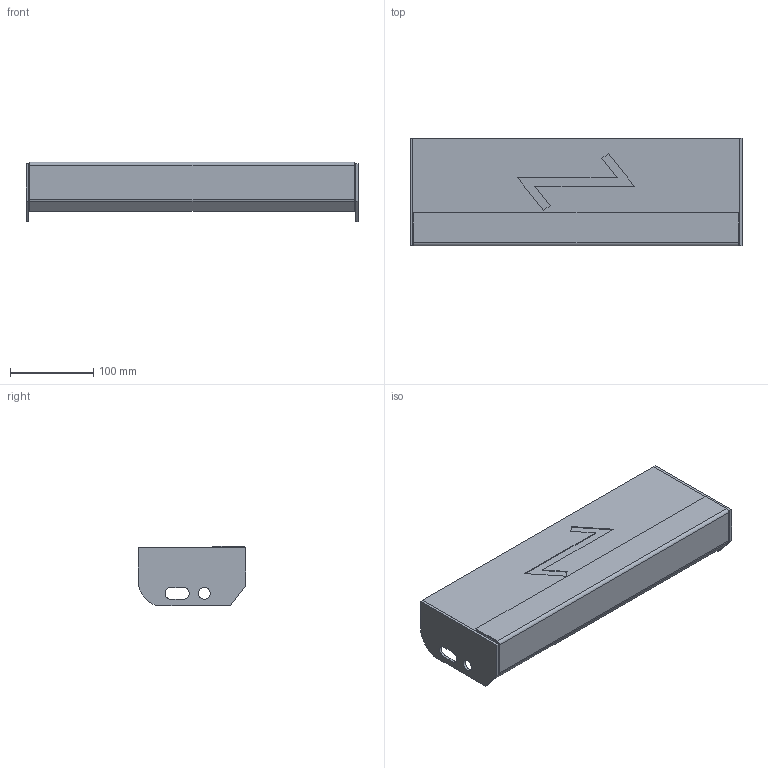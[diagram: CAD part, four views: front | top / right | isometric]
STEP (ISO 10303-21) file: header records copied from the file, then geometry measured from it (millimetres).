
FILE_DESCRIPTION (( 'STEP AP203' ), '1' );
FILE_NAME ('StegTH6-S-nya_steget-400x130.STEP', '2020-03-04T07:40:28', ( '' ), ( '' ), 'SwSTEP 2.0', 'SolidWorks 2019', '' );
FILE_SCHEMA (( 'CONFIG_CONTROL_DESIGN' ));
Length unit declared in the file: millimetre
Products named in the file (5): SW0000039266; SW0000038716; SW0000038694; SW0000039221; StegTH6-S-nya_steget-400x130
Assembly tree (5 placements, depth 3):
  StegTH6-S-nya_steget-400x130
    SW0000039266
      SW0000038716
      SW0000039221
      SW0000038694  x2
Bounding box: 400 x 130 x 72 mm (x, y, z)
Volume: 959112.9 mm3; surface area: 218377.3 mm2
Topology: 4 solids, 4 shells, 67 faces, 158 edges, 100 vertices
Faces by surface type: plane 51, cylinder 16
Entity records: 2002 total; most frequent: DIRECTION 261, CARTESIAN_POINT 254, ORIENTED_EDGE 238, EDGE_CURVE 119, LINE 99, VECTOR 99, AXIS2_PLACEMENT_3D 81, VERTEX_POINT 74
